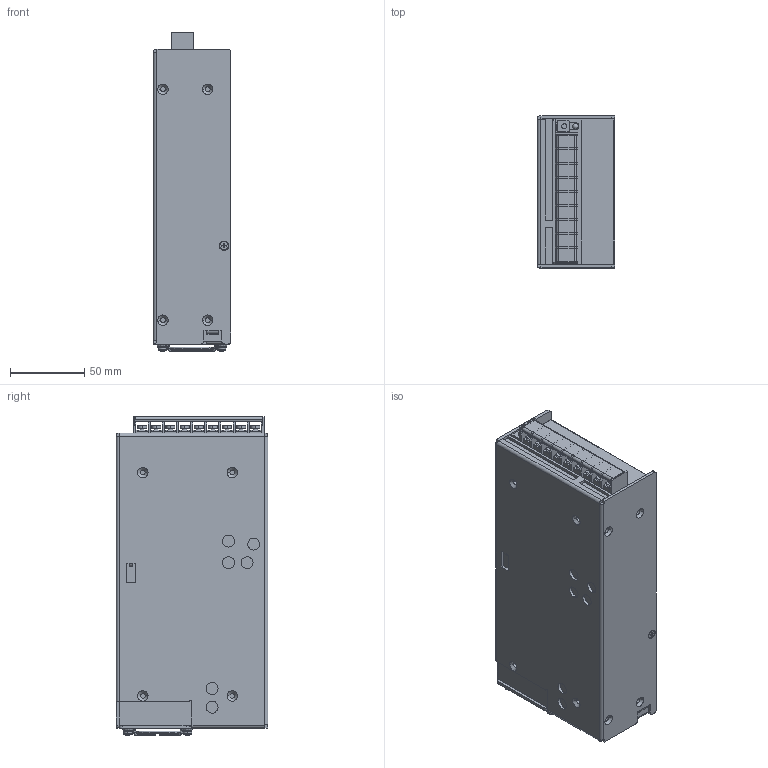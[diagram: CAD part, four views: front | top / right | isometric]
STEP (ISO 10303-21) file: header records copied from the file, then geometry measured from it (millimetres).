
FILE_DESCRIPTION (( 'STEP AP214' ), '1' );
FILE_NAME ('SWS300_OUTLINE.STEP', '2006-09-22T07:32:56', ( ' ' ), ( ' ' ), 'SwSTEP 2.0', 'SolidWorks 2006104', '' );
FILE_SCHEMA (( 'AUTOMOTIVE_DESIGN' ));
Length unit declared in the file: millimetre
Products named in the file (1): SWS300_OUTLINE
Bounding box: 52 x 102 x 214.1 mm (x, y, z)
Volume: 1022409.1 mm3; surface area: 89897.9 mm2
Topology: 2 solids, 4 shells, 1119 faces, 3081 edges, 1999 vertices
Faces by surface type: plane 676, cylinder 292, bspline 83, cone 68
Entity records: 49510 total; most frequent: CARTESIAN_POINT 8377, ORIENTED_EDGE 6142, DIRECTION 5929, EDGE_CURVE 3071, VERTEX_POINT 1999, VECTOR 1979, LINE 1979, AXIS2_PLACEMENT_3D 1975
